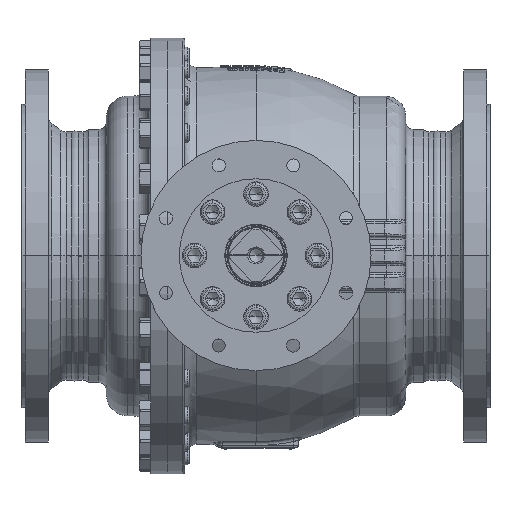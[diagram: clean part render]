
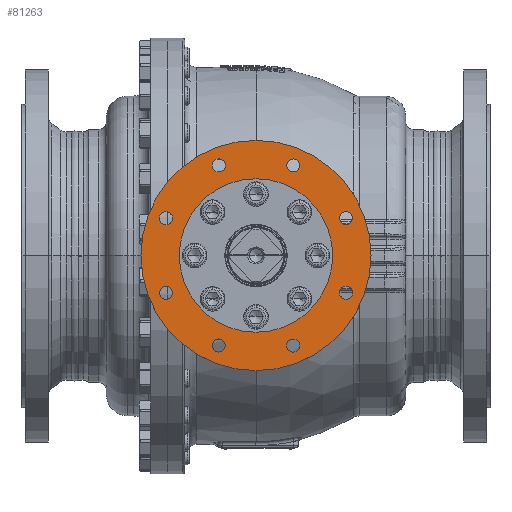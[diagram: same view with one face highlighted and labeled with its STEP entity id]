
A CAD part, top view. The second image highlights one B-rep face of the part: STEP entity #81263.
In plain terms, the highlighted planar face has unit normal (0, 0, 1).
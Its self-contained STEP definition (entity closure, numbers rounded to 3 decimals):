
#11227=CARTESIAN_POINT('',(0.,0.,376.));
#11228=DIRECTION('',(0.,0.,1.));
#11229=DIRECTION('',(0.,1.,0.));
#11230=AXIS2_PLACEMENT_3D('',#11227,#11228,#11229);
#11232=CARTESIAN_POINT('',(0.,0.,376.));
#11233=DIRECTION('',(0.,0.,-1.));
#11234=DIRECTION('',(0.,1.,0.));
#11235=AXIS2_PLACEMENT_3D('',#11232,#11233,#11234);
#11237=CARTESIAN_POINT('',(-48.601,-117.333,376.));
#11238=DIRECTION('',(0.,0.,-1.));
#11239=DIRECTION('',(0.,-1.,0.));
#11240=AXIS2_PLACEMENT_3D('',#11237,#11238,#11239);
#11242=CARTESIAN_POINT('',(-48.601,-117.333,376.));
#11243=DIRECTION('',(0.,0.,-1.));
#11244=DIRECTION('',(0.,1.,0.));
#11245=AXIS2_PLACEMENT_3D('',#11242,#11243,#11244);
#11247=CARTESIAN_POINT('',(-117.333,-48.601,376.));
#11248=DIRECTION('',(0.,0.,-1.));
#11249=DIRECTION('',(-0.707,-0.707,0.));
#11250=AXIS2_PLACEMENT_3D('',#11247,#11248,#11249);
#11252=CARTESIAN_POINT('',(-117.333,-48.601,376.));
#11253=DIRECTION('',(0.,0.,-1.));
#11254=DIRECTION('',(0.707,0.707,0.));
#11255=AXIS2_PLACEMENT_3D('',#11252,#11253,#11254);
#11257=CARTESIAN_POINT('',(-117.333,48.601,376.));
#11258=DIRECTION('',(0.,0.,-1.));
#11259=DIRECTION('',(-1.,0.,0.));
#11260=AXIS2_PLACEMENT_3D('',#11257,#11258,#11259);
#11262=CARTESIAN_POINT('',(-117.333,48.601,376.));
#11263=DIRECTION('',(0.,0.,-1.));
#11264=DIRECTION('',(1.,0.,0.));
#11265=AXIS2_PLACEMENT_3D('',#11262,#11263,#11264);
#11267=CARTESIAN_POINT('',(-48.601,117.333,376.));
#11268=DIRECTION('',(0.,0.,-1.));
#11269=DIRECTION('',(-0.707,0.707,0.));
#11270=AXIS2_PLACEMENT_3D('',#11267,#11268,#11269);
#11272=CARTESIAN_POINT('',(-48.601,117.333,376.));
#11273=DIRECTION('',(0.,0.,-1.));
#11274=DIRECTION('',(0.707,-0.707,0.));
#11275=AXIS2_PLACEMENT_3D('',#11272,#11273,#11274);
#11277=CARTESIAN_POINT('',(48.601,117.333,376.));
#11278=DIRECTION('',(0.,0.,-1.));
#11279=DIRECTION('',(0.,1.,0.));
#11280=AXIS2_PLACEMENT_3D('',#11277,#11278,#11279);
#11282=CARTESIAN_POINT('',(48.601,117.333,376.));
#11283=DIRECTION('',(0.,0.,-1.));
#11284=DIRECTION('',(0.,-1.,0.));
#11285=AXIS2_PLACEMENT_3D('',#11282,#11283,#11284);
#11287=CARTESIAN_POINT('',(117.333,48.601,376.));
#11288=DIRECTION('',(0.,0.,-1.));
#11289=DIRECTION('',(0.707,0.707,0.));
#11290=AXIS2_PLACEMENT_3D('',#11287,#11288,#11289);
#11292=CARTESIAN_POINT('',(117.333,48.601,376.));
#11293=DIRECTION('',(0.,0.,-1.));
#11294=DIRECTION('',(-0.707,-0.707,0.));
#11295=AXIS2_PLACEMENT_3D('',#11292,#11293,#11294);
#11297=CARTESIAN_POINT('',(117.333,-48.601,376.));
#11298=DIRECTION('',(0.,0.,-1.));
#11299=DIRECTION('',(1.,0.,0.));
#11300=AXIS2_PLACEMENT_3D('',#11297,#11298,#11299);
#11302=CARTESIAN_POINT('',(117.333,-48.601,376.));
#11303=DIRECTION('',(0.,0.,-1.));
#11304=DIRECTION('',(-1.,0.,0.));
#11305=AXIS2_PLACEMENT_3D('',#11302,#11303,#11304);
#11307=CARTESIAN_POINT('',(48.601,-117.333,376.));
#11308=DIRECTION('',(0.,0.,-1.));
#11309=DIRECTION('',(0.707,-0.707,0.));
#11310=AXIS2_PLACEMENT_3D('',#11307,#11308,#11309);
#11312=CARTESIAN_POINT('',(48.601,-117.333,376.));
#11313=DIRECTION('',(0.,0.,-1.));
#11314=DIRECTION('',(-0.707,0.707,0.));
#11315=AXIS2_PLACEMENT_3D('',#11312,#11313,#11314);
#11321=CARTESIAN_POINT('',(0.,0.,376.));
#11322=DIRECTION('',(0.,0.,-1.));
#11323=DIRECTION('',(0.,1.,0.));
#11324=AXIS2_PLACEMENT_3D('',#11321,#11322,#11323);
#11330=CARTESIAN_POINT('',(0.,0.,376.));
#11331=DIRECTION('',(0.,0.,1.));
#11332=DIRECTION('',(0.,1.,0.));
#11333=AXIS2_PLACEMENT_3D('',#11330,#11331,#11332);
#62564=CARTESIAN_POINT('',(0.,100.,376.));
#62566=VERTEX_POINT('',#62564);
#62568=CARTESIAN_POINT('',(0.,-100.,376.));
#62570=VERTEX_POINT('',#62568);
#62640=CARTESIAN_POINT('',(-48.601,-125.833,376.));
#62641=CARTESIAN_POINT('',(-48.601,-108.833,376.));
#62642=VERTEX_POINT('',#62640);
#62643=VERTEX_POINT('',#62641);
#62646=CARTESIAN_POINT('',(-123.343,-54.611,376.));
#62647=CARTESIAN_POINT('',(-111.322,-42.59,376.));
#62648=VERTEX_POINT('',#62646);
#62649=VERTEX_POINT('',#62647);
#62652=CARTESIAN_POINT('',(-125.833,48.601,376.));
#62653=CARTESIAN_POINT('',(-108.833,48.601,376.));
#62654=VERTEX_POINT('',#62652);
#62655=VERTEX_POINT('',#62653);
#62658=CARTESIAN_POINT('',(-54.611,123.343,376.));
#62659=CARTESIAN_POINT('',(-42.59,111.322,376.));
#62660=VERTEX_POINT('',#62658);
#62661=VERTEX_POINT('',#62659);
#62673=CARTESIAN_POINT('',(0.,150.,376.));
#62675=VERTEX_POINT('',#62673);
#62677=CARTESIAN_POINT('',(0.,-150.,376.));
#62679=VERTEX_POINT('',#62677);
#62688=CARTESIAN_POINT('',(48.601,125.833,376.));
#62689=CARTESIAN_POINT('',(48.601,108.833,376.));
#62690=VERTEX_POINT('',#62688);
#62691=VERTEX_POINT('',#62689);
#62696=CARTESIAN_POINT('',(123.343,54.611,376.));
#62697=CARTESIAN_POINT('',(111.322,42.59,376.));
#62698=VERTEX_POINT('',#62696);
#62699=VERTEX_POINT('',#62697);
#62704=CARTESIAN_POINT('',(125.833,-48.601,376.));
#62705=CARTESIAN_POINT('',(108.833,-48.601,376.));
#62706=VERTEX_POINT('',#62704);
#62707=VERTEX_POINT('',#62705);
#62712=CARTESIAN_POINT('',(54.611,-123.343,376.));
#62713=CARTESIAN_POINT('',(42.59,-111.322,376.));
#62714=VERTEX_POINT('',#62712);
#62715=VERTEX_POINT('',#62713);
#81200=CARTESIAN_POINT('',(0.,0.,376.));
#81201=DIRECTION('',(0.,0.,1.));
#81202=DIRECTION('',(0.,1.,0.));
#81203=AXIS2_PLACEMENT_3D('',#81200,#81201,#81202);
#81204=PLANE('',#81203);
#81205=ORIENTED_EDGE('',*,*,#81193,.F.);
#81206=ORIENTED_EDGE('',*,*,#81182,.T.);
#81207=EDGE_LOOP('',(#81205,#81206));
#81208=FACE_OUTER_BOUND('',#81207,.F.);
#81210=ORIENTED_EDGE('',*,*,#81209,.F.);
#81212=ORIENTED_EDGE('',*,*,#81211,.T.);
#81213=EDGE_LOOP('',(#81210,#81212));
#81214=FACE_BOUND('',#81213,.F.);
#81216=ORIENTED_EDGE('',*,*,#81215,.F.);
#81218=ORIENTED_EDGE('',*,*,#81217,.F.);
#81219=EDGE_LOOP('',(#81216,#81218));
#81220=FACE_BOUND('',#81219,.F.);
#81222=ORIENTED_EDGE('',*,*,#81221,.F.);
#81224=ORIENTED_EDGE('',*,*,#81223,.F.);
#81225=EDGE_LOOP('',(#81222,#81224));
#81226=FACE_BOUND('',#81225,.F.);
#81228=ORIENTED_EDGE('',*,*,#81227,.F.);
#81230=ORIENTED_EDGE('',*,*,#81229,.F.);
#81231=EDGE_LOOP('',(#81228,#81230));
#81232=FACE_BOUND('',#81231,.F.);
#81234=ORIENTED_EDGE('',*,*,#81233,.F.);
#81236=ORIENTED_EDGE('',*,*,#81235,.F.);
#81237=EDGE_LOOP('',(#81234,#81236));
#81238=FACE_BOUND('',#81237,.F.);
#81240=ORIENTED_EDGE('',*,*,#81239,.F.);
#81242=ORIENTED_EDGE('',*,*,#81241,.F.);
#81243=EDGE_LOOP('',(#81240,#81242));
#81244=FACE_BOUND('',#81243,.F.);
#81246=ORIENTED_EDGE('',*,*,#81245,.F.);
#81248=ORIENTED_EDGE('',*,*,#81247,.F.);
#81249=EDGE_LOOP('',(#81246,#81248));
#81250=FACE_BOUND('',#81249,.F.);
#81252=ORIENTED_EDGE('',*,*,#81251,.F.);
#81254=ORIENTED_EDGE('',*,*,#81253,.F.);
#81255=EDGE_LOOP('',(#81252,#81254));
#81256=FACE_BOUND('',#81255,.F.);
#81258=ORIENTED_EDGE('',*,*,#81257,.F.);
#81260=ORIENTED_EDGE('',*,*,#81259,.F.);
#81261=EDGE_LOOP('',(#81258,#81260));
#81262=FACE_BOUND('',#81261,.F.);
#81263=ADVANCED_FACE('',(#81208,#81214,#81220,#81226,#81232,#81238,#81244,
#81250,#81256,#81262),#81204,.T.);
#11231=CIRCLE('',#11230,150.);
#11236=CIRCLE('',#11235,150.);
#11241=CIRCLE('',#11240,8.5);
#11246=CIRCLE('',#11245,8.5);
#11251=CIRCLE('',#11250,8.5);
#11256=CIRCLE('',#11255,8.5);
#11261=CIRCLE('',#11260,8.5);
#11266=CIRCLE('',#11265,8.5);
#11271=CIRCLE('',#11270,8.5);
#11276=CIRCLE('',#11275,8.5);
#11281=CIRCLE('',#11280,8.5);
#11286=CIRCLE('',#11285,8.5);
#11291=CIRCLE('',#11290,8.5);
#11296=CIRCLE('',#11295,8.5);
#11301=CIRCLE('',#11300,8.5);
#11306=CIRCLE('',#11305,8.5);
#11311=CIRCLE('',#11310,8.5);
#11316=CIRCLE('',#11315,8.5);
#11325=CIRCLE('',#11324,100.);
#11334=CIRCLE('',#11333,100.);
#81182=EDGE_CURVE('',#62675,#62679,#11236,.T.);
#81193=EDGE_CURVE('',#62675,#62679,#11231,.T.);
#81209=EDGE_CURVE('',#62566,#62570,#11325,.T.);
#81211=EDGE_CURVE('',#62566,#62570,#11334,.T.);
#81215=EDGE_CURVE('',#62642,#62643,#11241,.T.);
#81217=EDGE_CURVE('',#62643,#62642,#11246,.T.);
#81221=EDGE_CURVE('',#62648,#62649,#11251,.T.);
#81223=EDGE_CURVE('',#62649,#62648,#11256,.T.);
#81227=EDGE_CURVE('',#62654,#62655,#11261,.T.);
#81229=EDGE_CURVE('',#62655,#62654,#11266,.T.);
#81233=EDGE_CURVE('',#62660,#62661,#11271,.T.);
#81235=EDGE_CURVE('',#62661,#62660,#11276,.T.);
#81239=EDGE_CURVE('',#62690,#62691,#11281,.T.);
#81241=EDGE_CURVE('',#62691,#62690,#11286,.T.);
#81245=EDGE_CURVE('',#62698,#62699,#11291,.T.);
#81247=EDGE_CURVE('',#62699,#62698,#11296,.T.);
#81251=EDGE_CURVE('',#62706,#62707,#11301,.T.);
#81253=EDGE_CURVE('',#62707,#62706,#11306,.T.);
#81257=EDGE_CURVE('',#62714,#62715,#11311,.T.);
#81259=EDGE_CURVE('',#62715,#62714,#11316,.T.);
